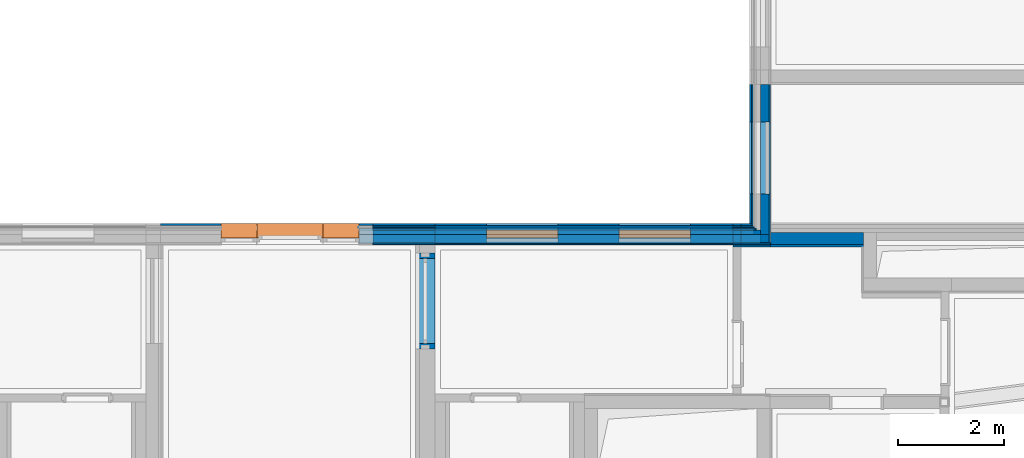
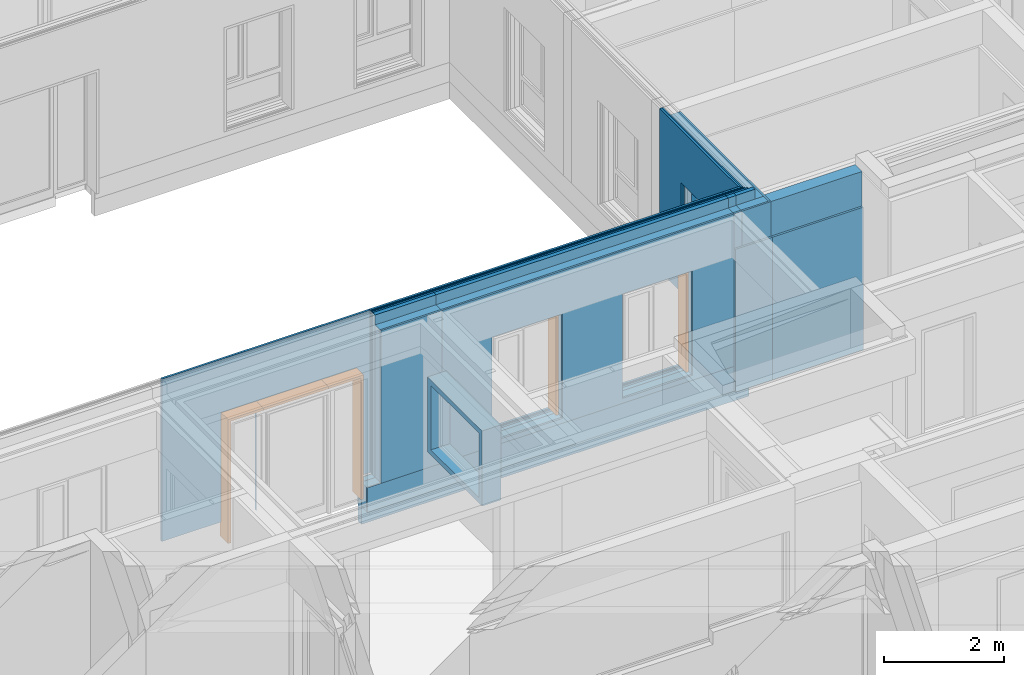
# One storey, part 33 of 207: 41 walls, 5 proxies, 22 openings.
"""IFC4 building model written with IfcOpenShell, lengths in metres."""

from ifc_helpers import new_model, entity, si_unit, converted_unit, derived_unit, frame, frame_2d, origin, origin_with_axes, place, context, subcontext, project, spatial, polyline, rectangle, outline, extrude, faceted_brep, material, element, fill, save


model = new_model("IFC4")

# Units and contexts
model_context = context("Model", 3, precision=1e-05, world=origin())
body_context = subcontext(model_context, "Body", "Model", "MODEL_VIEW")
ifc_project = project(units=[si_unit("LENGTHUNIT", "METRE"), si_unit("AREAUNIT", "SQUARE_METRE"), si_unit("VOLUMEUNIT", "CUBIC_METRE"), si_unit("MASSUNIT", "GRAM", prefix="KILO"), converted_unit("PLANEANGLEUNIT", "DEGREE", entity("IfcPlaneAngleMeasure", 0.0174532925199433), si_unit("PLANEANGLEUNIT", "RADIAN"), dimensions=[0, 0, 0, 0, 0, 0, 0]), derived_unit("THERMALTRANSMITTANCEUNIT", [(si_unit("POWERUNIT", "WATT"), 1), (si_unit("THERMODYNAMICTEMPERATUREUNIT", "KELVIN"), -1), (si_unit("LENGTHUNIT", "METRE"), -2)]), derived_unit("VOLUMETRICFLOWRATEUNIT", [(si_unit("LENGTHUNIT", "METRE"), 3), (converted_unit("TIMEUNIT", "hour", entity("IfcTimeMeasure", 3600.0), si_unit("TIMEUNIT", "SECOND"), dimensions=[0, 0, 1, 0, 0, 0, 0]), -1), (si_unit("LENGTHUNIT", "METRE"), -1)])], contexts=[model_context])

# Site, building, storey
site_placement = place(None, origin())
site = spatial("IfcSite", under=ifc_project, at=site_placement, Name="Psychiatrie Neubau Wunstorf", CompositionType="ELEMENT")
building_placement = place(site_placement, origin())
building = spatial("IfcBuilding", under=site, at=building_placement, Name="Neubau H2 Stationsgebäude", CompositionType="ELEMENT")
storey_placement = place(building_placement, frame((0.0, 0.0, -0.2)))
storey = spatial("IfcBuildingStorey", under=building, at=storey_placement, Name="H2 Ebene 0", CompositionType="ELEMENT", Elevation=-0.2)

# Wall, opening
ifc_material_1 = material(Name="WA-LB")
wall_1_placement = place(storey_placement, frame((62.061000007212, 10.1499996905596, 0.5), z_axis=(0.0, 0.0, 1.0), x_axis=(2.43546947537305e-15, 1.0, 0.0)))
wall_1 = element("IfcWall", 1, at=wall_1_placement, inside=storey, material=ifc_material_1, context=body_context, shape_type="SweptSolid", body=[
    extrude(rectangle(XDim=2.98749694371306, YDim=0.036, at=frame_2d((1.49374847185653, 0.018), x_axis=(1.0, 0.0))), origin_with_axes(), (0.0, 0.0, 1.0), 3.1),
])
opening_1_placement = place(wall_1_placement, frame((0.925, 0.0, 0.1), z_axis=(-3.15796771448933e-15, 1.0, 0.0), x_axis=(0.0, 0.0, 1.0)))
element("IfcOpeningElement", 2, at=opening_1_placement, cuts=wall_1, Name="Fensteröffnung", ObjectType="Opening", context=body_context, shape_type="SweptSolid", body=[
    extrude(outline(polyline([(2.12, 1.35), (2.12, 0.0), (0.0, 0.0), (0.0, 1.35), (2.12, 1.35)])), origin_with_axes(), (0.0, 0.0, 1.0), 0.036),
])

ifc_material_2 = material(Name="WA-HD")
wall_2_placement = place(storey_placement, frame((62.025000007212, 10.3099996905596, 0.5), z_axis=(0.0, 0.0, 1.0), x_axis=(2.5732857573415e-15, 1.0, 0.0)))
wall_2 = element("IfcWall", 3, at=wall_2_placement, inside=storey, material=ifc_material_2, context=body_context, shape_type="SweptSolid", body=[
    extrude(rectangle(XDim=2.82749694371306, YDim=0.16, at=frame_2d((1.41374847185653, 0.08), x_axis=(1.0, 0.0))), origin_with_axes(), (0.0, 0.0, 1.0), 3.1),
])
opening_2_placement = place(wall_2_placement, frame((0.765, 0.0, 0.1), z_axis=(-2.8421709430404e-15, 1.0, 0.0), x_axis=(0.0, 0.0, 1.0)))
element("IfcOpeningElement", 4, at=opening_2_placement, cuts=wall_2, Name="Fensteröffnung", ObjectType="Opening", context=body_context, shape_type="SweptSolid", body=[
    extrude(outline(polyline([(2.12, 1.35), (2.12, 0.0), (0.0, 0.0), (0.0, 1.35), (2.12, 1.35)])), origin_with_axes(), (0.0, 0.0, 1.0), 0.16),
])

ifc_material_3 = material(Name="WA-TL")
wall_3_placement = place(storey_placement, frame((61.725000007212, 10.4739996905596, 0.5), z_axis=(0.0, 0.0, 1.0), x_axis=(2.73173116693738e-15, 1.0, 0.0)))
wall_3 = element("IfcWall", 5, at=wall_3_placement, inside=storey, material=ifc_material_3, context=body_context, shape_type="SweptSolid", body=[
    extrude(rectangle(XDim=2.66349694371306, YDim=0.024, at=frame_2d((1.33174847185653, 0.012), x_axis=(1.0, 0.0))), origin_with_axes(), (0.0, 0.0, 1.0), 3.3),
])
opening_3_placement = place(wall_3_placement, frame((0.601, 0.0, 0.1), z_axis=(-4.736951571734e-15, 1.0, 0.0), x_axis=(0.0, 0.0, 1.0)))
element("IfcOpeningElement", 6, at=opening_3_placement, cuts=wall_3, Name="Fensteröffnung", ObjectType="Opening", context=body_context, shape_type="SweptSolid", body=[
    extrude(outline(polyline([(2.12, 1.35), (2.12, 0.0), (0.0, 0.0), (0.0, 1.35), (2.12, 1.35)])), origin_with_axes(), (0.0, 0.0, 1.0), 0.024),
])

ifc_material_4 = material(Name="WA-HS")
wall_4_placement = place(storey_placement, frame((61.701000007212, 10.5159996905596, 0.5), z_axis=(0.0, 0.0, 1.0), x_axis=(2.77549727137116e-15, 1.0, 0.0)))
wall_4 = element("IfcWall", 7, at=wall_4_placement, inside=storey, material=ifc_material_4, context=body_context, shape_type="SweptSolid", body=[
    extrude(rectangle(XDim=2.62149694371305, YDim=0.042, at=frame_2d((1.31074847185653, 0.021), x_axis=(1.0, 0.0))), origin_with_axes(), (0.0, 0.0, 1.0), 3.3),
])
opening_4_placement = place(wall_4_placement, frame((0.558999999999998, 0.0, 0.1), z_axis=(-2.70682946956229e-15, 1.0, 0.0), x_axis=(0.0, 0.0, 1.0)))
element("IfcOpeningElement", 8, at=opening_4_placement, cuts=wall_4, Name="Fensteröffnung", ObjectType="Opening", context=body_context, shape_type="SweptSolid", body=[
    extrude(outline(polyline([(2.12, 1.35), (2.12, 0.0), (0.0, 0.0), (0.0, 1.35), (2.12, 1.35)])), origin_with_axes(), (0.0, 0.0, 1.0), 0.042),
])

# Walls
ifc_material_5 = material(Name="WA-LB")
wall_5_placement = place(storey_placement, frame((61.3500000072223, 10.1139996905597, 0.5), z_axis=(0.0, 0.0, 1.0), x_axis=(1.0, -3.63797880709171e-14, 0.0)))
element("IfcWall", 9, at=wall_5_placement, inside=storey, material=ifc_material_5, context=body_context, shape_type="SweptSolid", body=[
    extrude(rectangle(XDim=0.15, YDim=0.036, at=frame_2d((0.075, 0.018), x_axis=(1.0, 0.0))), origin_with_axes(), (0.0, 0.0, 1.0), 3.1),
])
ifc_material_6 = material(Name="WA-HD")
wall_6_placement = place(storey_placement, frame((61.3500000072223, 10.1499996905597, 0.5), z_axis=(0.0, 0.0, 1.0), x_axis=(1.0, -3.63797880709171e-14, 0.0)))
element("IfcWall", 10, at=wall_6_placement, inside=storey, material=ifc_material_6, context=body_context, shape_type="SweptSolid", body=[
    extrude(rectangle(XDim=0.15, YDim=0.16, at=frame_2d((0.075, 0.08), x_axis=(1.0, 0.0))), origin_with_axes(), (0.0, 0.0, 1.0), 3.1),
])
ifc_material_7 = material(Name="WA-DL")
wall_7_placement = place(storey_placement, frame((61.3500000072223, 10.3099996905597, 0.5), z_axis=(0.0, 0.0, 1.0), x_axis=(1.0, -3.63797880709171e-14, 0.0)))
element("IfcWall", 11, at=wall_7_placement, inside=storey, material=ifc_material_7, context=body_context, shape_type="SweptSolid", body=[
    extrude(rectangle(XDim=0.15, YDim=0.08, at=frame_2d((0.075, 0.04), x_axis=(1.0, 0.0))), origin_with_axes(), (0.0, 0.0, 1.0), 3.3),
])
ifc_material_8 = material(Name="WA-TP")
wall_8_placement = place(storey_placement, frame((61.3500000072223, 10.3899996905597, 0.5), z_axis=(0.0, 0.0, 1.0), x_axis=(1.0, -3.63797880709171e-14, 0.0)))
element("IfcWall", 12, at=wall_8_placement, inside=storey, material=ifc_material_8, context=body_context, shape_type="SweptSolid", body=[
    extrude(rectangle(XDim=0.15, YDim=0.036, at=frame_2d((0.075, 0.018), x_axis=(1.0, 0.0))), origin_with_axes(), (0.0, 0.0, 1.0), 3.3),
])
ifc_material_9 = material(Name="WA-KL")
wall_9_placement = place(storey_placement, frame((61.3500000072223, 10.4259996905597, 0.5), z_axis=(0.0, 0.0, 1.0), x_axis=(1.0, -3.63797880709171e-14, 0.0)))
element("IfcWall", 13, at=wall_9_placement, inside=storey, material=ifc_material_9, context=body_context, shape_type="SweptSolid", body=[
    extrude(rectangle(XDim=0.15, YDim=0.024, at=frame_2d((0.075, 0.012), x_axis=(1.0, 0.0))), origin_with_axes(), (0.0, 0.0, 1.0), 3.3),
])
ifc_material_10 = material(Name="WA-TL")
wall_10_placement = place(storey_placement, frame((61.3500000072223, 10.4499996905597, 0.5), z_axis=(0.0, 0.0, 1.0), x_axis=(1.0, -3.63797880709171e-14, 0.0)))
element("IfcWall", 14, at=wall_10_placement, inside=storey, material=ifc_material_10, context=body_context, shape_type="SweptSolid", body=[
    extrude(rectangle(XDim=0.15, YDim=0.024, at=frame_2d((0.075, 0.012), x_axis=(1.0, 0.0))), origin_with_axes(), (0.0, 0.0, 1.0), 3.3),
])
ifc_material_11 = material(Name="WA-HS")
wall_11_placement = place(storey_placement, frame((61.3500000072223, 10.4739996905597, 0.5), z_axis=(0.0, 0.0, 1.0), x_axis=(1.0, -3.63797880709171e-14, 0.0)))
element("IfcWall", 15, at=wall_11_placement, inside=storey, material=ifc_material_11, context=body_context, shape_type="SweptSolid", body=[
    extrude(rectangle(XDim=0.15, YDim=0.042, at=frame_2d((0.075, 0.021), x_axis=(1.0, 0.0))), origin_with_axes(), (0.0, 0.0, 1.0), 3.3),
])
ifc_material_12 = material(Name="WA-LB")
wall_12_placement = place(storey_placement, frame((61.5000000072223, 10.1139996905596, 0.5)))
element("IfcWall", 16, at=wall_12_placement, inside=storey, material=ifc_material_12, context=body_context, shape_type="SweptSolid", body=[
    extrude(rectangle(XDim=0.560999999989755, YDim=0.036, at=frame_2d((0.280499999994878, 0.018), x_axis=(1.0, 0.0))), origin_with_axes(), (0.0, 0.0, 1.0), 3.1),
])
ifc_material_13 = material(Name="WA-HD")
wall_13_placement = place(storey_placement, frame((61.5000000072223, 10.1499996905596, 0.5)))
element("IfcWall", 17, at=wall_13_placement, inside=storey, material=ifc_material_13, context=body_context, shape_type="SweptSolid", body=[
    extrude(rectangle(XDim=0.524999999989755, YDim=0.16, at=frame_2d((0.262499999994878, 0.08), x_axis=(1.0, 0.0))), origin_with_axes(), (0.0, 0.0, 1.0), 3.1),
])
ifc_material_14 = material(Name="WA-DL")
wall_14_placement = place(storey_placement, frame((61.5000000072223, 10.3099996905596, 0.5)))
element("IfcWall", 18, at=wall_14_placement, inside=storey, material=ifc_material_14, context=body_context, shape_type="SweptSolid", body=[
    extrude(rectangle(XDim=0.364999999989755, YDim=0.08, at=frame_2d((0.182499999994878, 0.04), x_axis=(1.0, 0.0))), origin_with_axes(), (0.0, 0.0, 1.0), 3.3),
])
ifc_material_15 = material(Name="WA-LB")
wall_15_placement = place(storey_placement, frame((61.5000000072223, 10.3899996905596, 0.5)))
element("IfcWall", 19, at=wall_15_placement, inside=storey, material=ifc_material_15, context=body_context, shape_type="SweptSolid", body=[
    extrude(rectangle(XDim=0.284999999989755, YDim=0.036, at=frame_2d((0.142499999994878, 0.018), x_axis=(1.0, 0.0))), origin_with_axes(), (0.0, 0.0, 1.0), 3.3),
])
ifc_material_16 = material(Name="WA-KL")
wall_16_placement = place(storey_placement, frame((61.5000000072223, 10.4259996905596, 0.5)))
element("IfcWall", 20, at=wall_16_placement, inside=storey, material=ifc_material_16, context=body_context, shape_type="SweptSolid", body=[
    extrude(rectangle(XDim=0.248999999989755, YDim=0.024, at=frame_2d((0.124499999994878, 0.012), x_axis=(1.0, 0.0))), origin_with_axes(), (0.0, 0.0, 1.0), 3.3),
])
ifc_material_17 = material(Name="WA-TL")
wall_17_placement = place(storey_placement, frame((61.5000000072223, 10.4499996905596, 0.5)))
element("IfcWall", 21, at=wall_17_placement, inside=storey, material=ifc_material_17, context=body_context, shape_type="SweptSolid", body=[
    extrude(rectangle(XDim=0.224999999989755, YDim=0.024, at=frame_2d((0.112499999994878, 0.012), x_axis=(1.0, 0.0))), origin_with_axes(), (0.0, 0.0, 1.0), 3.3),
])
ifc_material_18 = material(Name="WA-HS")
wall_18_placement = place(storey_placement, frame((61.5000000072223, 10.4739996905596, 0.5)))
element("IfcWall", 22, at=wall_18_placement, inside=storey, material=ifc_material_18, context=body_context, shape_type="SweptSolid", body=[
    extrude(rectangle(XDim=0.200999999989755, YDim=0.042, at=frame_2d((0.100499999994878, 0.021), x_axis=(1.0, 0.0))), origin_with_axes(), (0.0, 0.0, 1.0), 3.3),
])
ifc_material_19 = material(Name="WA-LB")
wall_19_placement = place(storey_placement, frame((54.5625000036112, 10.1139996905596, 0.5)))
element("IfcWall", 23, at=wall_19_placement, inside=storey, material=ifc_material_19, context=body_context, shape_type="SweptSolid", body=[
    extrude(rectangle(XDim=1.17000000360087, YDim=0.036, at=frame_2d((0.585000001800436, 0.018), x_axis=(1.0, 0.0))), origin_with_axes(), (0.0, 0.0, 1.0), 3.1),
])
ifc_material_20 = material(Name="WA-HD")
wall_20_placement = place(storey_placement, frame((54.5625000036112, 10.1499996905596, 0.5)))
element("IfcWall", 24, at=wall_20_placement, inside=storey, material=ifc_material_20, context=body_context, shape_type="SweptSolid", body=[
    extrude(rectangle(XDim=1.17000000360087, YDim=0.16, at=frame_2d((0.585000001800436, 0.08), x_axis=(1.0, 0.0))), origin_with_axes(), (0.0, 0.0, 1.0), 3.1),
])
ifc_material_21 = material(Name="WA-DL")
wall_21_placement = place(storey_placement, frame((54.5625000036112, 10.3099996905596, 0.5)))
element("IfcWall", 25, at=wall_21_placement, inside=storey, material=ifc_material_21, context=body_context, shape_type="SweptSolid", body=[
    extrude(rectangle(XDim=1.17000000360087, YDim=0.08, at=frame_2d((0.585000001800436, 0.04), x_axis=(1.0, 0.0))), origin_with_axes(), (0.0, 0.0, 1.0), 3.3),
])
ifc_material_22 = material(Name="WA-TP")
wall_22_placement = place(storey_placement, frame((54.5625000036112, 10.3899996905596, 0.5)))
element("IfcWall", 26, at=wall_22_placement, inside=storey, material=ifc_material_22, context=body_context, shape_type="SweptSolid", body=[
    extrude(rectangle(XDim=1.17000000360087, YDim=0.036, at=frame_2d((0.585000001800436, 0.018), x_axis=(1.0, 0.0))), origin_with_axes(), (0.0, 0.0, 1.0), 3.3),
])
ifc_material_23 = material(Name="WA-KL")
wall_23_placement = place(storey_placement, frame((54.5625000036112, 10.4259996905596, 0.5)))
element("IfcWall", 27, at=wall_23_placement, inside=storey, material=ifc_material_23, context=body_context, shape_type="SweptSolid", body=[
    extrude(rectangle(XDim=1.17000000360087, YDim=0.024, at=frame_2d((0.585000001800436, 0.012), x_axis=(1.0, 0.0))), origin_with_axes(), (0.0, 0.0, 1.0), 3.3),
])
ifc_material_24 = material(Name="WA-TL")
wall_24_placement = place(storey_placement, frame((54.5625000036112, 10.4499996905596, 0.5)))
element("IfcWall", 28, at=wall_24_placement, inside=storey, material=ifc_material_24, context=body_context, shape_type="SweptSolid", body=[
    extrude(rectangle(XDim=1.17000000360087, YDim=0.024, at=frame_2d((0.585000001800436, 0.012), x_axis=(1.0, 0.0))), origin_with_axes(), (0.0, 0.0, 1.0), 3.3),
])
ifc_material_25 = material(Name="WA-HS")
wall_25_placement = place(storey_placement, frame((54.5625000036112, 10.4739996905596, 0.5)))
element("IfcWall", 29, at=wall_25_placement, inside=storey, material=ifc_material_25, context=body_context, shape_type="SweptSolid", body=[
    extrude(rectangle(XDim=1.17000000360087, YDim=0.042, at=frame_2d((0.585000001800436, 0.021), x_axis=(1.0, 0.0))), origin_with_axes(), (0.0, 0.0, 1.0), 3.3),
])

# Wall, openings
ifc_material_26 = material(Name="WA-LB")
wall_26_placement = place(storey_placement, frame((55.7325000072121, 10.1139996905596, 0.5)))
wall_26 = element("IfcWall", 30, at=wall_26_placement, inside=storey, material=ifc_material_26, context=body_context, shape_type="SweptSolid", body=[
    extrude(rectangle(XDim=5.61749999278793, YDim=0.036, at=frame_2d((2.80874999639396, 0.018), x_axis=(1.0, 0.0))), origin_with_axes(), (0.0, 0.0, 1.0), 3.1),
])
opening_5_placement = place(wall_26_placement, frame((4.81617713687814, 0.036, 0.1), z_axis=(0.0, -1.0, 0.0), x_axis=(0.0, 0.0, 1.0)))
element("IfcOpeningElement", 31, at=opening_5_placement, cuts=wall_26, Name="Fensteröffnung", ObjectType="Opening", context=body_context, shape_type="SweptSolid", body=[
    extrude(outline(polyline([(2.12, 1.35), (2.12, 0.0), (0.0, 0.0), (0.0, 1.35), (2.12, 1.35)])), origin_with_axes(), (0.0, 0.0, 1.0), 0.036),
])
opening_6_placement = place(wall_26_placement, frame((2.31617713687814, 0.036, 0.1), z_axis=(0.0, -1.0, 0.0), x_axis=(0.0, 0.0, 1.0)))
element("IfcOpeningElement", 32, at=opening_6_placement, cuts=wall_26, Name="Fensteröffnung", ObjectType="Opening", context=body_context, shape_type="SweptSolid", body=[
    extrude(outline(polyline([(2.12, 1.35), (2.12, 0.0), (0.0, 0.0), (0.0, 1.35), (2.12, 1.35)])), origin_with_axes(), (0.0, 0.0, 1.0), 0.036),
])

ifc_material_27 = material(Name="WA-HD")
wall_27_placement = place(storey_placement, frame((55.7325000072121, 10.1499996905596, 0.5)))
wall_27 = element("IfcWall", 33, at=wall_27_placement, inside=storey, material=ifc_material_27, context=body_context, shape_type="SweptSolid", body=[
    extrude(rectangle(XDim=5.61749999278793, YDim=0.16, at=frame_2d((2.80874999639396, 0.08), x_axis=(1.0, 0.0))), origin_with_axes(), (0.0, 0.0, 1.0), 3.1),
])
opening_7_placement = place(wall_27_placement, frame((4.81617713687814, 0.16, 0.1), z_axis=(0.0, -1.0, 0.0), x_axis=(0.0, 0.0, 1.0)))
element("IfcOpeningElement", 34, at=opening_7_placement, cuts=wall_27, Name="Fensteröffnung", ObjectType="Opening", context=body_context, shape_type="SweptSolid", body=[
    extrude(outline(polyline([(2.12, 1.35), (2.12, 0.0), (0.0, 0.0), (0.0, 1.35), (2.12, 1.35)])), origin_with_axes(), (0.0, 0.0, 1.0), 0.16),
])
opening_8_placement = place(wall_27_placement, frame((2.31617713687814, 0.16, 0.1), z_axis=(0.0, -1.0, 0.0), x_axis=(0.0, 0.0, 1.0)))
element("IfcOpeningElement", 35, at=opening_8_placement, cuts=wall_27, Name="Fensteröffnung", ObjectType="Opening", context=body_context, shape_type="SweptSolid", body=[
    extrude(outline(polyline([(2.12, 1.35), (2.12, 0.0), (0.0, 0.0), (0.0, 1.35), (2.12, 1.35)])), origin_with_axes(), (0.0, 0.0, 1.0), 0.16),
])

ifc_material_28 = material(Name="WA-DL")
wall_28_placement = place(storey_placement, frame((55.7325000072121, 10.3099996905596, 0.5)))
wall_28 = element("IfcWall", 36, at=wall_28_placement, inside=storey, material=ifc_material_28, context=body_context, shape_type="SweptSolid", body=[
    extrude(rectangle(XDim=5.61749999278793, YDim=0.08, at=frame_2d((2.80874999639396, 0.04), x_axis=(1.0, 0.0))), origin_with_axes(), (0.0, 0.0, 1.0), 3.3),
])
opening_9_placement = place(wall_28_placement, frame((4.81617713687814, 0.08, 0.1), z_axis=(0.0, -1.0, 0.0), x_axis=(0.0, 0.0, 1.0)))
element("IfcOpeningElement", 37, at=opening_9_placement, cuts=wall_28, Name="Fensteröffnung", ObjectType="Opening", context=body_context, shape_type="SweptSolid", body=[
    extrude(outline(polyline([(2.12, 1.35), (2.12, 0.0), (0.0, 0.0), (0.0, 1.35), (2.12, 1.35)])), origin_with_axes(), (0.0, 0.0, 1.0), 0.08),
])
opening_10_placement = place(wall_28_placement, frame((2.31617713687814, 0.08, 0.1), z_axis=(0.0, -1.0, 0.0), x_axis=(0.0, 0.0, 1.0)))
element("IfcOpeningElement", 38, at=opening_10_placement, cuts=wall_28, Name="Fensteröffnung", ObjectType="Opening", context=body_context, shape_type="SweptSolid", body=[
    extrude(outline(polyline([(2.12, 1.35), (2.12, 0.0), (0.0, 0.0), (0.0, 1.35), (2.12, 1.35)])), origin_with_axes(), (0.0, 0.0, 1.0), 0.08),
])

ifc_material_29 = material(Name="WA-LB")
wall_29_placement = place(storey_placement, frame((55.7325000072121, 10.3899996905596, 0.5)))
wall_29 = element("IfcWall", 39, at=wall_29_placement, inside=storey, material=ifc_material_29, context=body_context, shape_type="SweptSolid", body=[
    extrude(rectangle(XDim=5.61749999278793, YDim=0.036, at=frame_2d((2.80874999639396, 0.018), x_axis=(1.0, 0.0))), origin_with_axes(), (0.0, 0.0, 1.0), 3.3),
])
opening_11_placement = place(wall_29_placement, frame((4.81617713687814, 0.036, 0.1), z_axis=(0.0, -1.0, 0.0), x_axis=(0.0, 0.0, 1.0)))
element("IfcOpeningElement", 40, at=opening_11_placement, cuts=wall_29, Name="Fensteröffnung", ObjectType="Opening", context=body_context, shape_type="SweptSolid", body=[
    extrude(outline(polyline([(2.12, 1.35), (2.12, 0.0), (0.0, 0.0), (0.0, 1.35), (2.12, 1.35)])), origin_with_axes(), (0.0, 0.0, 1.0), 0.036),
])
opening_12_placement = place(wall_29_placement, frame((2.31617713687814, 0.036, 0.1), z_axis=(0.0, -1.0, 0.0), x_axis=(0.0, 0.0, 1.0)))
element("IfcOpeningElement", 41, at=opening_12_placement, cuts=wall_29, Name="Fensteröffnung", ObjectType="Opening", context=body_context, shape_type="SweptSolid", body=[
    extrude(outline(polyline([(2.12, 1.35), (2.12, 0.0), (0.0, 0.0), (0.0, 1.35), (2.12, 1.35)])), origin_with_axes(), (0.0, 0.0, 1.0), 0.036),
])

ifc_material_30 = material(Name="WA-KL")
wall_30_placement = place(storey_placement, frame((55.7325000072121, 10.4259996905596, 0.5)))
wall_30 = element("IfcWall", 42, at=wall_30_placement, inside=storey, material=ifc_material_30, context=body_context, shape_type="SweptSolid", body=[
    extrude(rectangle(XDim=5.61749999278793, YDim=0.024, at=frame_2d((2.80874999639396, 0.012), x_axis=(1.0, 0.0))), origin_with_axes(), (0.0, 0.0, 1.0), 3.3),
])
opening_13_placement = place(wall_30_placement, frame((4.81617713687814, 0.024, 0.1), z_axis=(0.0, -1.0, 0.0), x_axis=(0.0, 0.0, 1.0)))
element("IfcOpeningElement", 43, at=opening_13_placement, cuts=wall_30, Name="Fensteröffnung", ObjectType="Opening", context=body_context, shape_type="SweptSolid", body=[
    extrude(outline(polyline([(2.12, 1.35), (2.12, 0.0), (0.0, 0.0), (0.0, 1.35), (2.12, 1.35)])), origin_with_axes(), (0.0, 0.0, 1.0), 0.024),
])
opening_14_placement = place(wall_30_placement, frame((2.31617713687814, 0.024, 0.1), z_axis=(0.0, -1.0, 0.0), x_axis=(0.0, 0.0, 1.0)))
element("IfcOpeningElement", 44, at=opening_14_placement, cuts=wall_30, Name="Fensteröffnung", ObjectType="Opening", context=body_context, shape_type="SweptSolid", body=[
    extrude(outline(polyline([(2.12, 1.35), (2.12, 0.0), (0.0, 0.0), (0.0, 1.35), (2.12, 1.35)])), origin_with_axes(), (0.0, 0.0, 1.0), 0.024),
])

ifc_material_31 = material(Name="WA-TL")
wall_31_placement = place(storey_placement, frame((55.7325000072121, 10.4499996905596, 0.5)))
wall_31 = element("IfcWall", 45, at=wall_31_placement, inside=storey, material=ifc_material_31, context=body_context, shape_type="SweptSolid", body=[
    extrude(rectangle(XDim=5.61749999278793, YDim=0.024, at=frame_2d((2.80874999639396, 0.012), x_axis=(1.0, 0.0))), origin_with_axes(), (0.0, 0.0, 1.0), 3.3),
])
opening_15_placement = place(wall_31_placement, frame((4.81617713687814, 0.024, 0.1), z_axis=(0.0, -1.0, 0.0), x_axis=(0.0, 0.0, 1.0)))
element("IfcOpeningElement", 46, at=opening_15_placement, cuts=wall_31, Name="Fensteröffnung", ObjectType="Opening", context=body_context, shape_type="SweptSolid", body=[
    extrude(outline(polyline([(2.12, 1.35), (2.12, 0.0), (0.0, 0.0), (0.0, 1.35), (2.12, 1.35)])), origin_with_axes(), (0.0, 0.0, 1.0), 0.024),
])
opening_16_placement = place(wall_31_placement, frame((2.31617713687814, 0.024, 0.1), z_axis=(0.0, -1.0, 0.0), x_axis=(0.0, 0.0, 1.0)))
element("IfcOpeningElement", 47, at=opening_16_placement, cuts=wall_31, Name="Fensteröffnung", ObjectType="Opening", context=body_context, shape_type="SweptSolid", body=[
    extrude(outline(polyline([(2.12, 1.35), (2.12, 0.0), (0.0, 0.0), (0.0, 1.35), (2.12, 1.35)])), origin_with_axes(), (0.0, 0.0, 1.0), 0.024),
])

# Wall, openings, proxies
ifc_material_32 = material(Name="WA-HS")
wall_32_placement = place(storey_placement, frame((55.7325000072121, 10.4739996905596, 0.5)))
wall_32 = element("IfcWall", 48, at=wall_32_placement, inside=storey, material=ifc_material_32, context=body_context, shape_type="SweptSolid", body=[
    extrude(rectangle(XDim=5.61749999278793, YDim=0.042, at=frame_2d((2.80874999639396, 0.021), x_axis=(1.0, 0.0))), origin_with_axes(), (0.0, 0.0, 1.0), 3.3),
])
opening_17_placement = place(wall_32_placement, frame((4.81617713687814, 0.042, 0.1), z_axis=(0.0, -1.0, 0.0), x_axis=(0.0, 0.0, 1.0)))
opening_17 = element("IfcOpeningElement", 49, at=opening_17_placement, cuts=wall_32, Name="Fensteröffnung", ObjectType="Opening", context=body_context, shape_type="SweptSolid", body=[
    extrude(outline(polyline([(2.12, 1.35), (2.12, 0.0), (0.0, 0.0), (0.0, 1.35), (2.12, 1.35)])), origin_with_axes(), (0.0, 0.0, 1.0), 0.042),
])
opening_18_placement = place(wall_32_placement, frame((2.31617713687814, 0.042, 0.1), z_axis=(0.0, -1.0, 0.0), x_axis=(0.0, 0.0, 1.0)))
opening_18 = element("IfcOpeningElement", 50, at=opening_18_placement, cuts=wall_32, Name="Fensteröffnung", ObjectType="Opening", context=body_context, shape_type="SweptSolid", body=[
    extrude(outline(polyline([(2.12, 1.35), (2.12, 0.0), (0.0, 0.0), (0.0, 1.35), (2.12, 1.35)])), origin_with_axes(), (0.0, 0.0, 1.0), 0.042),
])
ifc_material_33 = material(Name="WA-HS")
proxy_1_placement = place(opening_17_placement, frame((0.0, 1.35, 0.275)))
proxy_1 = element("IfcBuildingElementProxy", 51, at=proxy_1_placement, inside=storey, material=ifc_material_33, context=body_context, shape_type="Brep", body=[
    faceted_brep([(0.0, -1.35, -0.275), (0.0, -1.35, 0.0), (2.12, -1.35, 0.0), (2.12, -1.35, -0.275), (0.0, -1.3, 0.0), (0.0, -1.3, -0.275), (2.07, -1.3, -0.275), (2.07, -1.3, 0.0), (2.12, 0.0, 0.0), (2.12, 0.0, -0.275), (0.0, 0.0, -0.275), (0.0, -0.05, -0.275), (2.07, -0.05, -0.275), (2.07, -0.05, 0.0), (0.0, -0.05, 0.0), (0.0, 0.0, 0.0)], [[[0, 1, 2, 3]], [[4, 5, 6, 7]], [[0, 5, 4, 1]], [[3, 2, 8, 9]], [[6, 5, 0, 3, 9, 10, 11, 12]], [[13, 14, 15, 8, 2, 1, 4, 7]], [[7, 6, 12, 13]], [[11, 14, 13, 12]], [[15, 10, 9, 8]], [[11, 10, 15, 14]]], orient=[[False], [False], [False], [False], [False], [False], [False], [False], [False], [False]]),
])
fill(opening_17, proxy_1)
ifc_material_34 = material(Name="WA-HS")
proxy_2_placement = place(opening_18_placement, frame((0.0, 1.35, 0.275)))
proxy_2 = element("IfcBuildingElementProxy", 52, at=proxy_2_placement, inside=storey, material=ifc_material_34, context=body_context, shape_type="Brep", body=[
    faceted_brep([(0.0, -1.35, -0.275), (0.0, -1.35, 0.0), (2.12, -1.35, 0.0), (2.12, -1.35, -0.275), (0.0, -1.3, 0.0), (0.0, -1.3, -0.275), (2.07, -1.3, -0.275), (2.07, -1.3, 0.0), (2.12, 0.0, 0.0), (2.12, 0.0, -0.275), (0.0, 0.0, -0.275), (0.0, -0.05, -0.275), (2.07, -0.05, -0.275), (2.07, -0.05, 0.0), (0.0, -0.05, 0.0), (0.0, 0.0, 0.0)], [[[0, 1, 2, 3]], [[4, 5, 6, 7]], [[0, 5, 4, 1]], [[3, 2, 8, 9]], [[6, 5, 0, 3, 9, 10, 11, 12]], [[13, 14, 15, 8, 2, 1, 4, 7]], [[7, 6, 12, 13]], [[11, 14, 13, 12]], [[15, 10, 9, 8]], [[11, 10, 15, 14]]], orient=[[False], [False], [False], [False], [False], [False], [False], [False], [False], [False]]),
])
fill(opening_18, proxy_2)

ifc_material_35 = material(Name="WA-HS")
wall_33_placement = place(storey_placement, frame((50.5580000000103, 10.4739996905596, 0.5)))
wall_33 = element("IfcWall", 53, at=wall_33_placement, inside=storey, material=ifc_material_35, context=body_context, shape_type="SweptSolid", body=[
    extrude(rectangle(XDim=4.00450000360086, YDim=0.042, at=frame_2d((2.00225000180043, 0.021), x_axis=(1.0, 0.0))), origin_with_axes(), (0.0, 0.0, 1.0), 3.3),
])
opening_19_placement = place(wall_33_placement, frame((1.81567714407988, 0.042, -0.3), z_axis=(0.0, -1.0, 0.0), x_axis=(0.0, 0.0, 1.0)))
opening_19 = element("IfcOpeningElement", 54, at=opening_19_placement, cuts=wall_33, Name="Fensteröffnung", ObjectType="Opening", context=body_context, shape_type="SweptSolid", body=[
    extrude(outline(polyline([(2.52, 0.675), (2.52, 0.0), (0.0, 0.0), (0.0, 0.675), (2.52, 0.675)])), origin_with_axes(), (0.0, 0.0, 1.0), 0.042),
])
opening_20_placement = place(wall_33_placement, frame((3.06570000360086, 0.042, -0.5), z_axis=(0.0, -1.0, 0.0), x_axis=(0.0, 0.0, 1.0)))
opening_20 = element("IfcOpeningElement", 55, at=opening_20_placement, cuts=wall_33, Name="Türöffnung", ObjectType="Opening", context=body_context, shape_type="SweptSolid", body=[
    extrude(outline(polyline([(2.72, 1.25), (2.72, 0.0), (0.0, 0.0), (0.0, 1.25), (2.72, 1.25)])), origin_with_axes(), (0.0, 0.0, 1.0), 0.042),
])
opening_21_placement = place(wall_33_placement, frame((3.74070000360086, 0.042, -0.3), z_axis=(0.0, -1.0, 0.0), x_axis=(0.0, 0.0, 1.0)))
opening_21 = element("IfcOpeningElement", 56, at=opening_21_placement, cuts=wall_33, Name="Fensteröffnung", ObjectType="Opening", context=body_context, shape_type="SweptSolid", body=[
    extrude(outline(polyline([(2.52, 0.675), (2.52, 0.0), (0.0, 0.0), (0.0, 0.675), (2.52, 0.675)])), origin_with_axes(), (0.0, 0.0, 1.0), 0.042),
])
ifc_material_36 = material(Name="WA-HS")
proxy_3_placement = place(opening_19_placement, frame((0.0, 0.675, 0.275)))
proxy_3 = element("IfcBuildingElementProxy", 57, at=proxy_3_placement, inside=storey, material=ifc_material_36, context=body_context, shape_type="Brep", body=[
    faceted_brep([(0.0, -0.05, -0.275), (0.0, -0.05, 0.0), (2.47, -0.05, 0.0), (2.47, -0.05, -0.275), (0.0, 0.0, 0.0), (0.0, 0.0, -0.275), (2.52, 0.0, -0.275), (2.52, 0.0, 0.0), (2.47, -0.675, 0.0), (2.52, -0.675, 0.0), (2.47, -0.675, -0.275), (2.52, -0.675, -0.275)], [[[0, 1, 2, 3]], [[4, 5, 6, 7]], [[0, 5, 4, 1]], [[8, 2, 1, 4, 7, 9]], [[10, 11, 6, 5, 0, 3]], [[10, 8, 9, 11]], [[11, 9, 7, 6]], [[8, 10, 3, 2]]], orient=[[False], [False], [False], [False], [False], [False], [False], [False]]),
])
fill(opening_19, proxy_3)
ifc_material_37 = material(Name="WA-HS")
proxy_4_placement = place(opening_20_placement, frame((2.67, 1.25, 0.275)))
proxy_4 = element("IfcBuildingElementProxy", 58, at=proxy_4_placement, inside=storey, material=ifc_material_37, context=body_context, shape_type="Brep", body=[
    faceted_brep([(0.0, -1.25, 0.0), (0.0, -1.25, -0.275), (0.0, 0.0, -0.275), (0.0, 0.0, 0.0), (0.05, -1.25, -0.275), (0.05, -1.25, 0.0), (0.05, 0.0, 0.0), (0.05, 0.0, -0.275)], [[[0, 1, 2, 3]], [[4, 5, 6, 7]], [[1, 0, 5, 4]], [[2, 1, 4, 7]], [[3, 2, 7, 6]], [[0, 3, 6, 5]]], orient=[[False], [False], [False], [False], [False], [False]]),
])
fill(opening_20, proxy_4)
ifc_material_38 = material(Name="WA-HS")
proxy_5_placement = place(opening_21_placement, frame((0.0, 0.675, 0.275)))
proxy_5 = element("IfcBuildingElementProxy", 59, at=proxy_5_placement, inside=storey, material=ifc_material_38, context=body_context, shape_type="Brep", body=[
    faceted_brep([(0.0, -0.675, -0.275), (0.0, -0.675, 0.0), (2.52, -0.675, 0.0), (2.52, -0.675, -0.275), (2.52, 0.0, 0.0), (2.52, 0.0, -0.275), (0.0, -0.625, -0.275), (0.0, -0.625, 0.0), (2.47, 0.0, -0.275), (2.47, -0.625, -0.275), (2.47, -0.625, 0.0), (2.47, 0.0, 0.0)], [[[0, 1, 2, 3]], [[3, 2, 4, 5]], [[0, 6, 7, 1]], [[6, 0, 3, 5, 8, 9]], [[1, 7, 10, 11, 4, 2]], [[7, 6, 9, 10]], [[11, 8, 5, 4]], [[10, 9, 8, 11]]], orient=[[False], [False], [False], [False], [False], [False], [False], [False]]),
])
fill(opening_21, proxy_5)

# Walls
ifc_material_39 = material(Name="WA-LB")
wall_34_placement = place(storey_placement, frame((54.2987000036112, 10.1139996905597, 0.0)))
element("IfcWall", 60, at=wall_34_placement, inside=storey, material=ifc_material_39, context=body_context, shape_type="SweptSolid", body=[
    extrude(rectangle(XDim=7.74130000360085, YDim=0.021, at=frame_2d((3.87065000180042, 0.0105), x_axis=(1.0, 0.0))), origin_with_axes(), (0.0, 0.0, 1.0), 0.5),
])
ifc_material_40 = material(Name="WA-STB")
wall_35_placement = place(storey_placement, frame((54.2987000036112, 10.1349996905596, 0.0)))
element("IfcWall", 61, at=wall_35_placement, inside=storey, material=ifc_material_40, context=body_context, shape_type="SweptSolid", body=[
    extrude(rectangle(XDim=7.56630000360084, YDim=0.174999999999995, at=frame_2d((3.78315000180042, 0.0874999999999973), x_axis=(1.0, 0.0))), origin_with_axes(), (0.0, 0.0, 1.0), 0.5),
])
ifc_material_41 = material(Name="WA-DE")
wall_36_placement = place(storey_placement, frame((54.2987000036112, 10.3099996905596, -0.36), z_axis=(0.0, 0.0, 1.0), x_axis=(1.0, -7.32842916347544e-16, 0.0)))
element("IfcWall", 62, at=wall_36_placement, inside=storey, material=ifc_material_41, context=body_context, shape_type="SweptSolid", body=[
    extrude(rectangle(XDim=7.44630000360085, YDim=0.12, at=frame_2d((3.72315000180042, 0.06), x_axis=(1.0, 0.0))), origin_with_axes(), (0.0, 0.0, 1.0), 0.86),
])
ifc_material_42 = material(Name="WA-LB")
wall_37_placement = place(storey_placement, frame((54.2987000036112, 10.4299996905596, 0.0), z_axis=(0.0, 0.0, 1.0), x_axis=(1.0, -4.89548101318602e-16, 0.0)))
element("IfcWall", 63, at=wall_37_placement, inside=storey, material=ifc_material_42, context=body_context, shape_type="SweptSolid", body=[
    extrude(rectangle(XDim=7.43130000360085, YDim=0.015, at=frame_2d((3.71565000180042, 0.0075), x_axis=(1.0, 0.0))), origin_with_axes(), (0.0, 0.0, 1.0), 0.5),
])

# Wall, opening
ifc_material_43 = material(Name="WI-LW 60")
wall_38_placement = place(storey_placement, frame((55.3675000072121, 9.95899969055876, 0.95), z_axis=(0.0, 0.0, 1.0), x_axis=(0.0, -1.0, 0.0)))
wall_38 = element("IfcWall", 64, at=wall_38_placement, inside=storey, material=ifc_material_43, context=body_context, shape_type="SweptSolid", body=[
    extrude(rectangle(XDim=1.815, YDim=0.365, at=frame_2d((0.9075, 0.1825), x_axis=(1.0, 0.0))), origin_with_axes(), (0.0, 0.0, 1.0), 1.525),
])
opening_22_placement = place(wall_38_placement, frame((0.1075, 0.0, 0.1075), z_axis=(0.0, 1.0, 0.0), x_axis=(0.0, 0.0, 1.0)))
element("IfcOpeningElement", 65, at=opening_22_placement, cuts=wall_38, Name="Fensteröffnung", ObjectType="Opening", context=body_context, shape_type="SweptSolid", body=[
    extrude(outline(polyline([(1.31, 1.6), (1.31, 0.0), (0.0, 0.0), (0.0, 1.6), (1.31, 1.6)])), origin_with_axes(), (0.0, 0.0, 1.0), 0.365),
])

# Walls
ifc_material_44 = material(Name="WI-HW 60")
wall_39_placement = place(storey_placement, frame((63.8100000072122, 10.3459996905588, 0.0), z_axis=(0.0, 0.0, 1.0), x_axis=(-1.0, 0.0, 0.0)))
element("IfcWall", 66, at=wall_39_placement, inside=storey, material=ifc_material_44, context=body_context, shape_type="SweptSolid", body=[
    extrude(rectangle(XDim=1.749, YDim=0.232, at=frame_2d((0.8745, 0.116), x_axis=(1.0, 0.0))), origin_with_axes(), (0.0, 0.0, 1.0), 3.6),
])
ifc_material_45 = material(Name="WI-LB")
wall_40_placement = place(storey_placement, frame((63.8100000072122, 10.1139996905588, 0.0), z_axis=(0.0, 0.0, 1.0), x_axis=(-1.0, 0.0, 0.0)))
element("IfcWall", 67, at=wall_40_placement, inside=storey, material=ifc_material_45, context=body_context, shape_type="SweptSolid", body=[
    extrude(rectangle(XDim=1.749, YDim=0.04, at=frame_2d((0.8745, 0.02), x_axis=(1.0, 0.0))), origin_with_axes(), (0.0, 0.0, 1.0), 2.9),
])
ifc_material_46 = material(Name="WI-IW")
wall_41_placement = place(storey_placement, frame((62.0610000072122, 10.1139996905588, 0.0), z_axis=(0.0, 0.0, 1.0), x_axis=(-1.0, 0.0, 0.0)))
element("IfcWall", 68, at=wall_41_placement, inside=storey, material=ifc_material_46, context=body_context, shape_type="SweptSolid", body=[
    extrude(rectangle(XDim=0.711000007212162, YDim=0.04, at=frame_2d((0.355500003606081, 0.02), x_axis=(1.0, 0.0))), origin_with_axes(), (0.0, 0.0, 1.0), 2.9),
])

save(model, "model.ifc")
